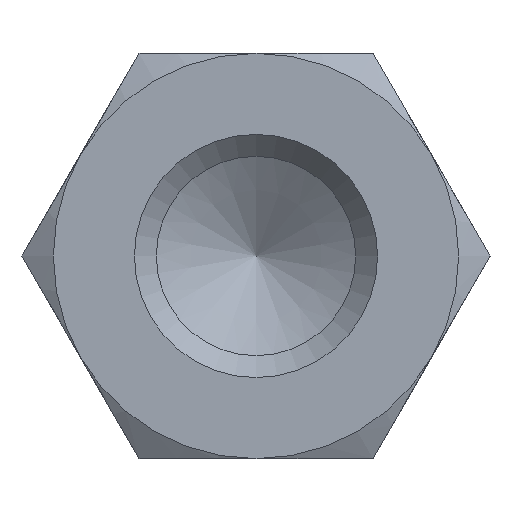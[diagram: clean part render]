
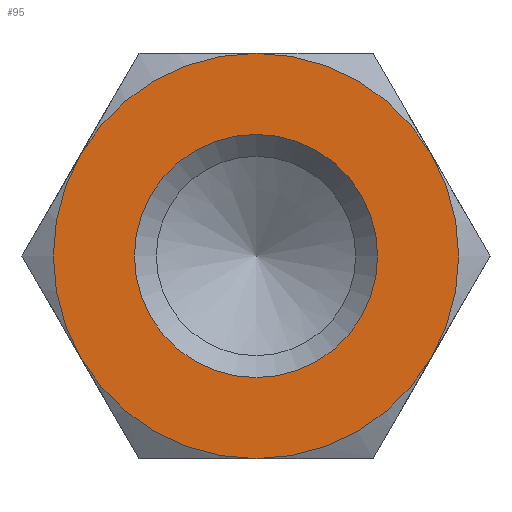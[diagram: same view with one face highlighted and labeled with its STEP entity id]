
A CAD part, left-side view. The second image highlights one B-rep face of the part: STEP entity #95.
In plain terms, the highlighted planar face has unit normal (-1, 0, 0).
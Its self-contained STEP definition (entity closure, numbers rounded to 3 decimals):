
#95 = ADVANCED_FACE( '', ( #147, #148 ), #149, .F. );
#147 = FACE_OUTER_BOUND( '', #206, .T. );
#148 = FACE_BOUND( '', #207, .T. );
#149 = PLANE( '', #208 );
#206 = EDGE_LOOP( '', ( #356, #357, #358, #359, #360, #361 ) );
#207 = EDGE_LOOP( '', ( #362 ) );
#208 = AXIS2_PLACEMENT_3D( '', #363, #364, #365 );
#356 = ORIENTED_EDGE( '', *, *, #440, .F. );
#357 = ORIENTED_EDGE( '', *, *, #425, .F. );
#358 = ORIENTED_EDGE( '', *, *, #441, .F. );
#359 = ORIENTED_EDGE( '', *, *, #437, .F. );
#360 = ORIENTED_EDGE( '', *, *, #442, .F. );
#361 = ORIENTED_EDGE( '', *, *, #443, .F. );
#362 = ORIENTED_EDGE( '', *, *, #439, .T. );
#363 = CARTESIAN_POINT( '', ( -50., 0., 0. ) );
#364 = DIRECTION( '', ( 1., 0., 0. ) );
#365 = DIRECTION( '', ( 0., 0., -1. ) );
#425 = EDGE_CURVE( '', #495, #493, #497, .T. );
#437 = EDGE_CURVE( '', #447, #506, #513, .T. );
#439 = EDGE_CURVE( '', #516, #516, #517, .T. );
#440 = EDGE_CURVE( '', #493, #486, #518, .T. );
#441 = EDGE_CURVE( '', #506, #495, #519, .T. );
#442 = EDGE_CURVE( '', #481, #447, #520, .T. );
#443 = EDGE_CURVE( '', #486, #481, #521, .T. );
#447 = VERTEX_POINT( '', #525 );
#481 = VERTEX_POINT( '', #601 );
#486 = VERTEX_POINT( '', #617 );
#493 = VERTEX_POINT( '', #642 );
#495 = VERTEX_POINT( '', #647 );
#497 = CIRCLE( '', #654, 5. );
#506 = VERTEX_POINT( '', #680 );
#513 = CIRCLE( '', #717, 5. );
#516 = VERTEX_POINT( '', #720 );
#517 = CIRCLE( '', #721, 3. );
#518 = CIRCLE( '', #722, 5. );
#519 = CIRCLE( '', #723, 5. );
#520 = CIRCLE( '', #724, 5. );
#521 = CIRCLE( '', #725, 5. );
#525 = CARTESIAN_POINT( '', ( -50., -4.33, 2.5 ) );
#601 = CARTESIAN_POINT( '', ( -50., 0., 5. ) );
#617 = CARTESIAN_POINT( '', ( -50., 4.33, 2.5 ) );
#642 = CARTESIAN_POINT( '', ( -50., 4.33, -2.5 ) );
#647 = CARTESIAN_POINT( '', ( -50., 0., -5. ) );
#654 = AXIS2_PLACEMENT_3D( '', #760, #761, #762 );
#680 = CARTESIAN_POINT( '', ( -50., -4.33, -2.5 ) );
#717 = AXIS2_PLACEMENT_3D( '', #765, #766, #767 );
#720 = CARTESIAN_POINT( '', ( -50., 0., -3. ) );
#721 = AXIS2_PLACEMENT_3D( '', #771, #772, #773 );
#722 = AXIS2_PLACEMENT_3D( '', #774, #775, #776 );
#723 = AXIS2_PLACEMENT_3D( '', #777, #778, #779 );
#724 = AXIS2_PLACEMENT_3D( '', #780, #781, #782 );
#725 = AXIS2_PLACEMENT_3D( '', #783, #784, #785 );
#760 = CARTESIAN_POINT( '', ( -50., 0., 0. ) );
#761 = DIRECTION( '', ( 1., 0., 0. ) );
#762 = DIRECTION( '', ( 0., 0., -1. ) );
#765 = CARTESIAN_POINT( '', ( -50., 0., 0. ) );
#766 = DIRECTION( '', ( 1., 0., 0. ) );
#767 = DIRECTION( '', ( 0., 0., -1. ) );
#771 = CARTESIAN_POINT( '', ( -50., 0., 0. ) );
#772 = DIRECTION( '', ( 1., 0., 0. ) );
#773 = DIRECTION( '', ( 0., 0., -1. ) );
#774 = CARTESIAN_POINT( '', ( -50., 0., 0. ) );
#775 = DIRECTION( '', ( 1., 0., 0. ) );
#776 = DIRECTION( '', ( 0., 0., -1. ) );
#777 = CARTESIAN_POINT( '', ( -50., 0., 0. ) );
#778 = DIRECTION( '', ( 1., 0., 0. ) );
#779 = DIRECTION( '', ( 0., 0., -1. ) );
#780 = CARTESIAN_POINT( '', ( -50., 0., 0. ) );
#781 = DIRECTION( '', ( 1., 0., 0. ) );
#782 = DIRECTION( '', ( 0., 0., -1. ) );
#783 = CARTESIAN_POINT( '', ( -50., 0., 0. ) );
#784 = DIRECTION( '', ( 1., 0., 0. ) );
#785 = DIRECTION( '', ( 0., 0., -1. ) );
